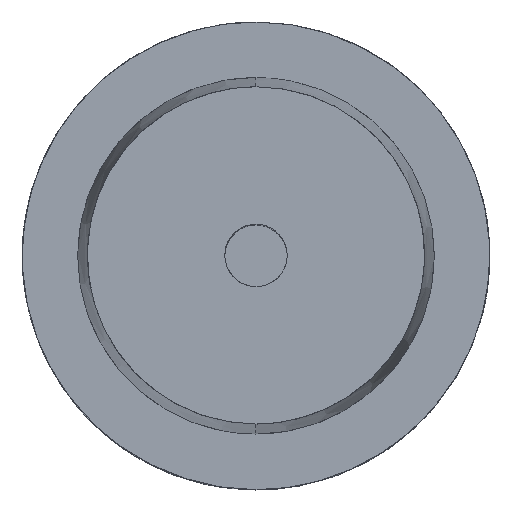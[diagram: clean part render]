
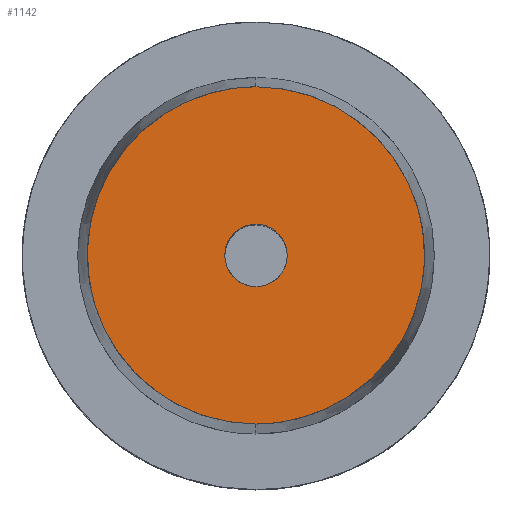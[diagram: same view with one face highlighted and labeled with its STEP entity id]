
A CAD part, top view. The second image highlights one B-rep face of the part: STEP entity #1142.
In plain terms, the highlighted planar face has unit normal (0, 0, -1).
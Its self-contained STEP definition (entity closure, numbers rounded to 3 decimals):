
#1142 = ADVANCED_FACE('',(#1143,#1190),#1159,.T.);
#1143 = FACE_BOUND('',#1144,.T.);
#1144 = EDGE_LOOP('',(#1145,#1172));
#1145 = ORIENTED_EDGE('',*,*,#1146,.T.);
#1146 = EDGE_CURVE('',#1147,#1149,#1151,.T.);
#1147 = VERTEX_POINT('',#1148);
#1148 = CARTESIAN_POINT('',(0.,22.717,32.));
#1149 = VERTEX_POINT('',#1150);
#1150 = CARTESIAN_POINT('',(0.,-22.717,32.));
#1151 = SURFACE_CURVE('',#1152,(#1158),.PCURVE_S1.);
#1152 = ( BOUNDED_CURVE() B_SPLINE_CURVE(2,(#1153,#1154,#1155,#1156,
#1157),.UNSPECIFIED.,.F.,.F.) B_SPLINE_CURVE_WITH_KNOTS((3,2,3),(0.,0.5,
1.),.PIECEWISE_BEZIER_KNOTS.) CURVE() GEOMETRIC_REPRESENTATION_ITEM() 
RATIONAL_B_SPLINE_CURVE((1.,0.707,1.,0.707,1.)) 
REPRESENTATION_ITEM('') );
#1153 = CARTESIAN_POINT('',(0.,22.717,32.));
#1154 = CARTESIAN_POINT('',(22.717,22.717,32.));
#1155 = CARTESIAN_POINT('',(22.717,0.,32.));
#1156 = CARTESIAN_POINT('',(22.717,-22.717,32.));
#1157 = CARTESIAN_POINT('',(0.,-22.717,32.));
#1158 = PCURVE('',#1159,#1164);
#1159 = PLANE('',#1160);
#1160 = AXIS2_PLACEMENT_3D('',#1161,#1162,#1163);
#1161 = CARTESIAN_POINT('',(0.,0.,32.)
  );
#1162 = DIRECTION('',(0.,0.,-1.));
#1163 = DIRECTION('',(0.,1.,0.));
#1164 = DEFINITIONAL_REPRESENTATION('',(#1165),#1171);
#1165 = ( BOUNDED_CURVE() B_SPLINE_CURVE(2,(#1166,#1167,#1168,#1169,
#1170),.UNSPECIFIED.,.F.,.F.) B_SPLINE_CURVE_WITH_KNOTS((3,2,3),(0.,0.5,
1.),.PIECEWISE_BEZIER_KNOTS.) CURVE() GEOMETRIC_REPRESENTATION_ITEM() 
RATIONAL_B_SPLINE_CURVE((1.,0.707,1.,0.707,1.)) 
REPRESENTATION_ITEM('') );
#1166 = CARTESIAN_POINT('',(22.717,0.));
#1167 = CARTESIAN_POINT('',(22.717,22.717));
#1168 = CARTESIAN_POINT('',(0.,22.717));
#1169 = CARTESIAN_POINT('',(-22.717,22.717));
#1170 = CARTESIAN_POINT('',(-22.717,0.));
#1171 = ( GEOMETRIC_REPRESENTATION_CONTEXT(2) 
PARAMETRIC_REPRESENTATION_CONTEXT() REPRESENTATION_CONTEXT('2D SPACE',''
  ) );
#1172 = ORIENTED_EDGE('',*,*,#1173,.T.);
#1173 = EDGE_CURVE('',#1149,#1147,#1174,.T.);
#1174 = SURFACE_CURVE('',#1175,(#1181),.PCURVE_S1.);
#1175 = ( BOUNDED_CURVE() B_SPLINE_CURVE(2,(#1176,#1177,#1178,#1179,
#1180),.UNSPECIFIED.,.F.,.F.) B_SPLINE_CURVE_WITH_KNOTS((3,2,3),(0.,0.5,
1.),.PIECEWISE_BEZIER_KNOTS.) CURVE() GEOMETRIC_REPRESENTATION_ITEM() 
RATIONAL_B_SPLINE_CURVE((1.,0.707,1.,0.707,1.)) 
REPRESENTATION_ITEM('') );
#1176 = CARTESIAN_POINT('',(0.,-22.717,32.));
#1177 = CARTESIAN_POINT('',(-22.717,-22.717,32.));
#1178 = CARTESIAN_POINT('',(-22.717,0.,32.));
#1179 = CARTESIAN_POINT('',(-22.717,22.717,32.));
#1180 = CARTESIAN_POINT('',(0.,22.717,32.));
#1181 = PCURVE('',#1159,#1182);
#1182 = DEFINITIONAL_REPRESENTATION('',(#1183),#1189);
#1183 = ( BOUNDED_CURVE() B_SPLINE_CURVE(2,(#1184,#1185,#1186,#1187,
#1188),.UNSPECIFIED.,.F.,.F.) B_SPLINE_CURVE_WITH_KNOTS((3,2,3),(0.,0.5,
1.),.PIECEWISE_BEZIER_KNOTS.) CURVE() GEOMETRIC_REPRESENTATION_ITEM() 
RATIONAL_B_SPLINE_CURVE((1.,0.707,1.,0.707,1.)) 
REPRESENTATION_ITEM('') );
#1184 = CARTESIAN_POINT('',(-22.717,0.));
#1185 = CARTESIAN_POINT('',(-22.717,-22.717));
#1186 = CARTESIAN_POINT('',(0.,-22.717));
#1187 = CARTESIAN_POINT('',(22.717,-22.717));
#1188 = CARTESIAN_POINT('',(22.717,0.));
#1189 = ( GEOMETRIC_REPRESENTATION_CONTEXT(2) 
PARAMETRIC_REPRESENTATION_CONTEXT() REPRESENTATION_CONTEXT('2D SPACE',''
  ) );
#1190 = FACE_BOUND('',#1191,.T.);
#1191 = EDGE_LOOP('',(#1192,#1214));
#1192 = ORIENTED_EDGE('',*,*,#1193,.T.);
#1193 = EDGE_CURVE('',#1194,#1196,#1198,.T.);
#1194 = VERTEX_POINT('',#1195);
#1195 = CARTESIAN_POINT('',(0.,4.2,32.));
#1196 = VERTEX_POINT('',#1197);
#1197 = CARTESIAN_POINT('',(0.,-4.2,32.));
#1198 = SURFACE_CURVE('',#1199,(#1205),.PCURVE_S1.);
#1199 = ( BOUNDED_CURVE() B_SPLINE_CURVE(2,(#1200,#1201,#1202,#1203,
#1204),.UNSPECIFIED.,.F.,.F.) B_SPLINE_CURVE_WITH_KNOTS((3,2,3),(0.,0.5,
1.),.PIECEWISE_BEZIER_KNOTS.) CURVE() GEOMETRIC_REPRESENTATION_ITEM() 
RATIONAL_B_SPLINE_CURVE((1.,0.707,1.,0.707,1.)) 
REPRESENTATION_ITEM('') );
#1200 = CARTESIAN_POINT('',(0.,4.2,32.));
#1201 = CARTESIAN_POINT('',(-4.2,4.2,32.));
#1202 = CARTESIAN_POINT('',(-4.2,0.,32.));
#1203 = CARTESIAN_POINT('',(-4.2,-4.2,32.));
#1204 = CARTESIAN_POINT('',(0.,-4.2,32.));
#1205 = PCURVE('',#1159,#1206);
#1206 = DEFINITIONAL_REPRESENTATION('',(#1207),#1213);
#1207 = ( BOUNDED_CURVE() B_SPLINE_CURVE(2,(#1208,#1209,#1210,#1211,
#1212),.UNSPECIFIED.,.F.,.F.) B_SPLINE_CURVE_WITH_KNOTS((3,2,3),(0.,0.5,
1.),.PIECEWISE_BEZIER_KNOTS.) CURVE() GEOMETRIC_REPRESENTATION_ITEM() 
RATIONAL_B_SPLINE_CURVE((1.,0.707,1.,0.707,1.)) 
REPRESENTATION_ITEM('') );
#1208 = CARTESIAN_POINT('',(4.2,0.));
#1209 = CARTESIAN_POINT('',(4.2,-4.2));
#1210 = CARTESIAN_POINT('',(0.,-4.2));
#1211 = CARTESIAN_POINT('',(-4.2,-4.2));
#1212 = CARTESIAN_POINT('',(-4.2,0.));
#1213 = ( GEOMETRIC_REPRESENTATION_CONTEXT(2) 
PARAMETRIC_REPRESENTATION_CONTEXT() REPRESENTATION_CONTEXT('2D SPACE',''
  ) );
#1214 = ORIENTED_EDGE('',*,*,#1215,.T.);
#1215 = EDGE_CURVE('',#1196,#1194,#1216,.T.);
#1216 = SURFACE_CURVE('',#1217,(#1223),.PCURVE_S1.);
#1217 = ( BOUNDED_CURVE() B_SPLINE_CURVE(2,(#1218,#1219,#1220,#1221,
#1222),.UNSPECIFIED.,.F.,.F.) B_SPLINE_CURVE_WITH_KNOTS((3,2,3),(0.,0.5,
1.),.PIECEWISE_BEZIER_KNOTS.) CURVE() GEOMETRIC_REPRESENTATION_ITEM() 
RATIONAL_B_SPLINE_CURVE((1.,0.707,1.,0.707,1.)) 
REPRESENTATION_ITEM('') );
#1218 = CARTESIAN_POINT('',(0.,-4.2,32.));
#1219 = CARTESIAN_POINT('',(4.2,-4.2,32.));
#1220 = CARTESIAN_POINT('',(4.2,0.,32.));
#1221 = CARTESIAN_POINT('',(4.2,4.2,32.));
#1222 = CARTESIAN_POINT('',(0.,4.2,32.));
#1223 = PCURVE('',#1159,#1224);
#1224 = DEFINITIONAL_REPRESENTATION('',(#1225),#1231);
#1225 = ( BOUNDED_CURVE() B_SPLINE_CURVE(2,(#1226,#1227,#1228,#1229,
#1230),.UNSPECIFIED.,.F.,.F.) B_SPLINE_CURVE_WITH_KNOTS((3,2,3),(0.,0.5,
1.),.PIECEWISE_BEZIER_KNOTS.) CURVE() GEOMETRIC_REPRESENTATION_ITEM() 
RATIONAL_B_SPLINE_CURVE((1.,0.707,1.,0.707,1.)) 
REPRESENTATION_ITEM('') );
#1226 = CARTESIAN_POINT('',(-4.2,0.));
#1227 = CARTESIAN_POINT('',(-4.2,4.2));
#1228 = CARTESIAN_POINT('',(0.,4.2));
#1229 = CARTESIAN_POINT('',(4.2,4.2));
#1230 = CARTESIAN_POINT('',(4.2,0.));
#1231 = ( GEOMETRIC_REPRESENTATION_CONTEXT(2) 
PARAMETRIC_REPRESENTATION_CONTEXT() REPRESENTATION_CONTEXT('2D SPACE',''
  ) );
